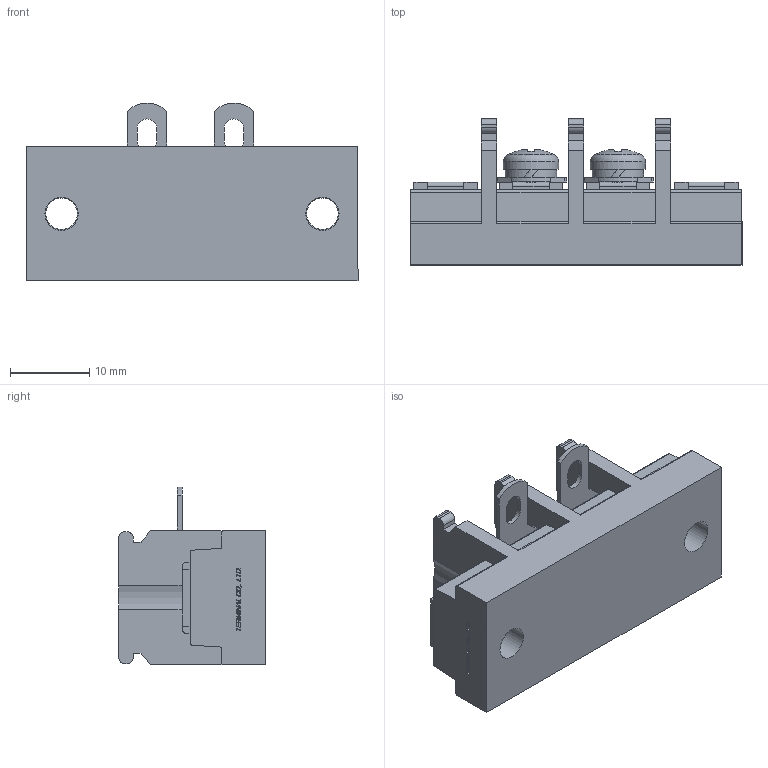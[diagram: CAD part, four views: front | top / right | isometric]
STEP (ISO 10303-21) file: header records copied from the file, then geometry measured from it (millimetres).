
FILE_DESCRIPTION(/* description */ ('Alibre Inc.'),/* implementation_level */ '2;1');
FILE_NAME(/* name */ 'export0',/* time_stamp */ '2015-10-19T19:27:55+09:00',/* author */ (''),/* organization */ (''),/* preprocessor_version */ 'ST-DEVELOPER v14',/* originating_system */ 'Alibre',/* authorisation */ '');
FILE_SCHEMA (('CONFIG_CONTROL_DESIGN'));
Length unit declared in the file: centimetre
Products named in the file (1): ID_1
Bounding box: 42 x 18.5 x 22.5 mm (x, y, z)
Volume: 7261.5 mm3; surface area: 4566 mm2
Topology: 1 solids, 1 shells, 716 faces, 1964 edges, 1292 vertices
Faces by surface type: plane 538, bspline 104, cylinder 60, cone 8, torus 4, sphere 2
Full cylindrical faces by diameter (mm): 4 x4, 4.2 x4, 6.5 x2, 7 x2
Entity records: 21596 total; most frequent: CARTESIAN_POINT 4833, ORIENTED_EDGE 3884, DIRECTION 2483, EDGE_CURVE 1942, VECTOR 1477, LINE 1477, VERTEX_POINT 1284, EDGE_LOOP 800
